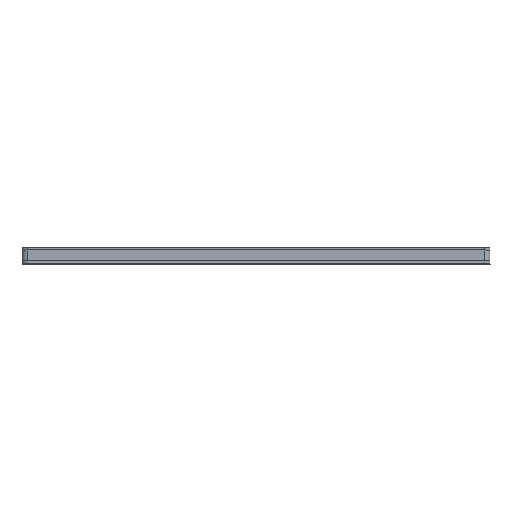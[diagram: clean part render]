
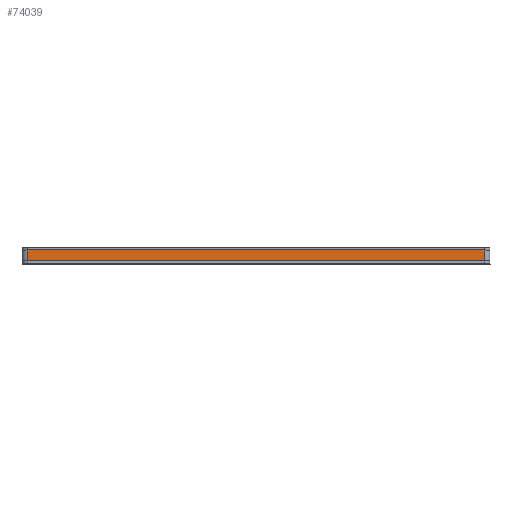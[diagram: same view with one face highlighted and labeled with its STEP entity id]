
A CAD part, top view. The second image highlights one B-rep face of the part: STEP entity #74039.
In plain terms, the highlighted planar face has unit normal (0, 0, 1).
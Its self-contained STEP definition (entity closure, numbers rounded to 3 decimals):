
#784 = VERTEX_POINT ( 'NONE', #17267 ) ;
#2885 = AXIS2_PLACEMENT_3D ( 'NONE', #42243, #19471, #25496 ) ;
#3470 = EDGE_CURVE ( 'NONE', #44495, #784, #11135, .T. ) ;
#9253 = VERTEX_POINT ( 'NONE', #39247 ) ;
#9735 = ORIENTED_EDGE ( 'NONE', *, *, #38197, .F. ) ;
#11135 = LINE ( 'NONE', #53536, #32641 ) ;
#17267 = CARTESIAN_POINT ( 'NONE',  ( 3., -4.4, 128.5 ) ) ;
#19264 = DIRECTION ( 'NONE',  ( 0., -1., 0. ) ) ;
#19471 = DIRECTION ( 'NONE',  ( 0., 0., -1. ) ) ;
#20259 = DIRECTION ( 'NONE',  ( 0., -1., 0. ) ) ;
#21088 = VECTOR ( 'NONE', #20259, 1000. ) ;
#21208 = EDGE_CURVE ( 'NONE', #9253, #784, #59358, .T. ) ;
#22877 = VERTEX_POINT ( 'NONE', #32524 ) ;
#25115 = LINE ( 'NONE', #69905, #65299 ) ;
#25496 = DIRECTION ( 'NONE',  ( -1., 0., 0. ) ) ;
#27839 = CARTESIAN_POINT ( 'NONE',  ( 253., -4.4, 128.5 ) ) ;
#27961 = ORIENTED_EDGE ( 'NONE', *, *, #21208, .F. ) ;
#30005 = LINE ( 'NONE', #49033, #21088 ) ;
#32524 = CARTESIAN_POINT ( 'NONE',  ( 253., 1.6, 128.5 ) ) ;
#32641 = VECTOR ( 'NONE', #19264, 1000. ) ;
#38197 = EDGE_CURVE ( 'NONE', #22877, #9253, #30005, .T. ) ;
#39247 = CARTESIAN_POINT ( 'NONE',  ( 253., -4.4, 128.5 ) ) ;
#42243 = CARTESIAN_POINT ( 'NONE',  ( 253., 1.6, 128.5 ) ) ;
#44495 = VERTEX_POINT ( 'NONE', #48361 ) ;
#47011 = FACE_OUTER_BOUND ( 'NONE', #63072, .T. ) ;
#48361 = CARTESIAN_POINT ( 'NONE',  ( 3., 1.6, 128.5 ) ) ;
#49033 = CARTESIAN_POINT ( 'NONE',  ( 253., 1.6, 128.5 ) ) ;
#52166 = ORIENTED_EDGE ( 'NONE', *, *, #57511, .F. ) ;
#53536 = CARTESIAN_POINT ( 'NONE',  ( 3., 1.6, 128.5 ) ) ;
#57511 = EDGE_CURVE ( 'NONE', #44495, #22877, #25115, .T. ) ;
#58469 = VECTOR ( 'NONE', #67999, 1000. ) ;
#58696 = DIRECTION ( 'NONE',  ( 1., 0., 0. ) ) ;
#59358 = LINE ( 'NONE', #27839, #58469 ) ;
#63072 = EDGE_LOOP ( 'NONE', ( #72308, #27961, #9735, #52166 ) ) ;
#65299 = VECTOR ( 'NONE', #58696, 1000. ) ;
#67999 = DIRECTION ( 'NONE',  ( -1., 0., 0. ) ) ;
#69905 = CARTESIAN_POINT ( 'NONE',  ( 253., 1.6, 128.5 ) ) ;
#70679 = PLANE ( 'NONE',  #2885 ) ;
#72308 = ORIENTED_EDGE ( 'NONE', *, *, #3470, .T. ) ;
#74039 = ADVANCED_FACE ( 'NONE', ( #47011 ), #70679, .F. ) ;
